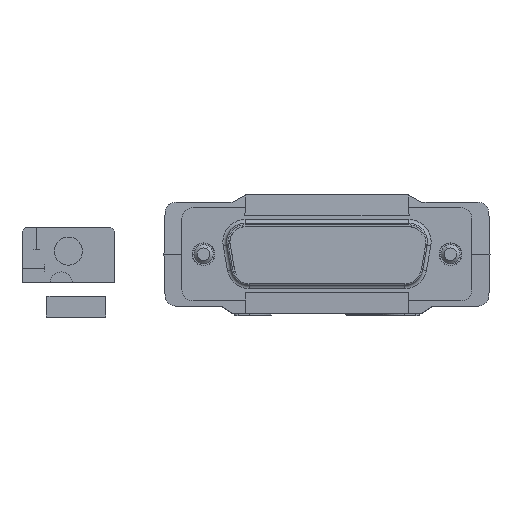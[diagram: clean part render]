
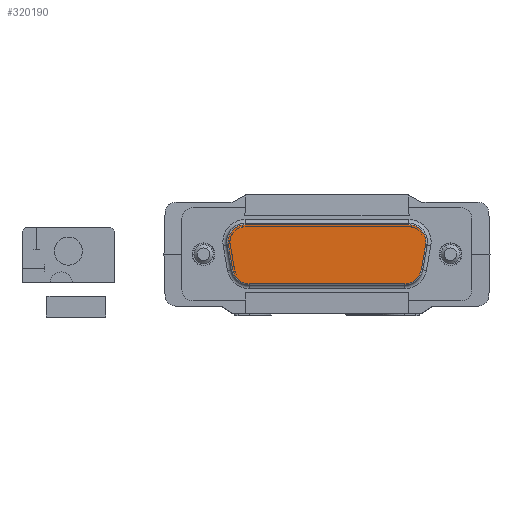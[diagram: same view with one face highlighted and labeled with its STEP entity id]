
A CAD part, left-side view. The second image highlights one B-rep face of the part: STEP entity #320190.
In plain terms, the highlighted planar face has unit normal (-1, 0, 0) as drawn and (1, 0, 0) by its records, which use the part's own axes.
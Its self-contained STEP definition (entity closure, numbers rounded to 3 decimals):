
#236340=CARTESIAN_POINT('',(-10.578,-37.393,
1.67));
#236350=DIRECTION('',(1.,0.,0.));
#236360=DIRECTION('',(0.,-1.,0.));
#236370=AXIS2_PLACEMENT_3D('',#236340,#236350,#236360);
#236380=CIRCLE('',#236370,2.05);
#236390=CARTESIAN_POINT('',(-10.578,-35.374,
2.026));
#236400=VERTEX_POINT('',#236390);
#236410=CARTESIAN_POINT('',(-10.578,-35.653,
2.755));
#236420=VERTEX_POINT('',#236410);
#236430=EDGE_CURVE('',#236400,#236420,#236380,.T.);
#261880=CARTESIAN_POINT('',(-10.578,-58.929,
-3.696));
#261890=VERTEX_POINT('',#261880);
#261940=CARTESIAN_POINT('',(-10.578,-44.902,
-3.696));
#261950=DIRECTION('',(0.,-1.,0.));
#261960=VECTOR('',#261950,1.);
#261970=LINE('',#261940,#261960);
#261980=CARTESIAN_POINT('',(-10.578,-36.819,
-3.696));
#261990=VERTEX_POINT('',#261980);
#262000=EDGE_CURVE('',#261990,#261890,#261970,.T.);
#262380=CARTESIAN_POINT('',(-10.578,-60.669,
-2.73));
#262390=VERTEX_POINT('',#262380);
#262420=CARTESIAN_POINT('',(-10.578,-58.929,
-1.646));
#262430=DIRECTION('',(1.,0.,0.));
#262440=DIRECTION('',(0.,-1.,0.));
#262450=AXIS2_PLACEMENT_3D('',#262420,#262430,#262440);
#262460=CIRCLE('',#262450,2.05);
#262470=EDGE_CURVE('',#262390,#261890,#262460,.T.);
#314730=CARTESIAN_POINT('',(-10.578,-34.8,
-1.29));
#314740=VERTEX_POINT('',#314730);
#314870=CARTESIAN_POINT('',(-10.578,-36.819,
-1.646));
#314880=DIRECTION('',(1.,0.,0.));
#314890=DIRECTION('',(0.,-1.,0.));
#314900=AXIS2_PLACEMENT_3D('',#314870,#314880,#314890);
#314910=CIRCLE('',#314900,2.05);
#314920=EDGE_CURVE('',#261990,#314740,#314910,.T.);
#317720=CARTESIAN_POINT('',(-10.578,-35.389,
2.05));
#317730=VERTEX_POINT('',#317720);
#317850=CARTESIAN_POINT('',(-10.578,-34.8,
-1.29));
#317860=DIRECTION('',(0.,-0.174,
0.985));
#317870=VECTOR('',#317860,1.);
#317880=LINE('',#317850,#317870);
#317890=EDGE_CURVE('',#314740,#317730,#317880,.T.);
#318420=CARTESIAN_POINT('',(-10.578,-34.785,
-1.314));
#318430=VERTEX_POINT('',#318420);
#318460=CARTESIAN_POINT('',(-10.578,-36.804,
-1.67));
#318470=DIRECTION('',(1.,0.,0.));
#318480=DIRECTION('',(0.,-1.,0.));
#318490=AXIS2_PLACEMENT_3D('',#318460,#318470,#318480);
#318500=CIRCLE('',#318490,2.05);
#318510=CARTESIAN_POINT('',(-10.578,-36.804,
-3.72));
#318520=VERTEX_POINT('',#318510);
#318530=EDGE_CURVE('',#318520,#318430,#318500,.T.);
#318780=CARTESIAN_POINT('',(-10.578,-36.128,
6.3));
#318790=DIRECTION('',(0.,-0.174,
0.985));
#318800=VECTOR('',#318790,1.);
#318810=LINE('',#318780,#318800);
#318820=EDGE_CURVE('',#318430,#236400,#318810,.T.);
#319010=CARTESIAN_POINT('',(-10.578,-37.408,
1.694));
#319020=DIRECTION('',(1.,0.,0.));
#319030=DIRECTION('',(0.,-1.,0.));
#319040=AXIS2_PLACEMENT_3D('',#319010,#319020,#319030);
#319050=CIRCLE('',#319040,2.05);
#319060=EDGE_CURVE('',#317730,#236420,#319050,.T.);
#319190=CARTESIAN_POINT('',(-10.578,-29.244,
6.3));
#319200=DIRECTION('',(1.,0.,0.));
#319210=DIRECTION('',(0.,-1.,0.));
#319220=AXIS2_PLACEMENT_3D('',#319190,#319200,#319210);
#319230=PLANE('',#319220);
#319240=ORIENTED_EDGE('',*,*,#319060,.T.);
#319250=ORIENTED_EDGE('',*,*,#317890,.T.);
#319260=ORIENTED_EDGE('',*,*,#314920,.T.);
#319270=ORIENTED_EDGE('',*,*,#262000,.F.);
#319280=ORIENTED_EDGE('',*,*,#262470,.T.);
#319290=CARTESIAN_POINT('',(-10.578,-58.914,
-1.67));
#319300=DIRECTION('',(1.,0.,0.));
#319310=DIRECTION('',(0.,-1.,0.));
#319320=AXIS2_PLACEMENT_3D('',#319290,#319300,#319310);
#319330=CIRCLE('',#319320,2.05);
#319340=CARTESIAN_POINT('',(-10.578,-58.914,
-3.72));
#319350=VERTEX_POINT('',#319340);
#319360=EDGE_CURVE('',#262390,#319350,#319330,.T.);
#319370=ORIENTED_EDGE('',*,*,#319360,.F.);
#319380=CARTESIAN_POINT('',(-10.578,-37.574,
-3.72));
#319390=DIRECTION('',(0.,1.,0.));
#319400=VECTOR('',#319390,1.);
#319410=LINE('',#319380,#319400);
#319420=EDGE_CURVE('',#319350,#318520,#319410,.T.);
#319430=ORIENTED_EDGE('',*,*,#319420,.F.);
#319440=ORIENTED_EDGE('',*,*,#318530,.F.);
#319450=ORIENTED_EDGE('',*,*,#318820,.F.);
#319460=ORIENTED_EDGE('',*,*,#236430,.F.);
#319470=EDGE_LOOP('',(#319460,#319450,#319440,#319430,#319370,#319280,
#319270,#319260,#319250,#319240));
#319480=FACE_BOUND('',#319470,.T.);
#319490=CARTESIAN_POINT('',(-10.578,-37.393,
1.67));
#319500=DIRECTION('',(1.,0.,0.));
#319510=DIRECTION('',(0.,-1.,0.));
#319520=AXIS2_PLACEMENT_3D('',#319490,#319500,#319510);
#319530=CIRCLE('',#319520,2.3);
#319540=CARTESIAN_POINT('',(-10.578,-35.128,
2.069));
#319550=VERTEX_POINT('',#319540);
#319560=CARTESIAN_POINT('',(-10.578,-37.393,
3.97));
#319570=VERTEX_POINT('',#319560);
#319580=EDGE_CURVE('',#319550,#319570,#319530,.T.);
#319590=ORIENTED_EDGE('',*,*,#319580,.T.);
#319600=CARTESIAN_POINT('',(-10.578,-35.874,
6.3));
#319610=DIRECTION('',(0.,-0.174,
0.985));
#319620=VECTOR('',#319610,1.);
#319630=LINE('',#319600,#319620);
#319640=CARTESIAN_POINT('',(-10.578,-34.539,
-1.271));
#319650=VERTEX_POINT('',#319640);
#319660=EDGE_CURVE('',#319650,#319550,#319630,.T.);
#319670=ORIENTED_EDGE('',*,*,#319660,.T.);
#319680=CARTESIAN_POINT('',(-10.578,-36.804,
-1.67));
#319690=DIRECTION('',(1.,0.,0.));
#319700=DIRECTION('',(0.,-1.,0.));
#319710=AXIS2_PLACEMENT_3D('',#319680,#319690,#319700);
#319720=CIRCLE('',#319710,2.3);
#319730=CARTESIAN_POINT('',(-10.578,-36.804,
-3.97));
#319740=VERTEX_POINT('',#319730);
#319750=EDGE_CURVE('',#319740,#319650,#319720,.T.);
#319760=ORIENTED_EDGE('',*,*,#319750,.T.);
#319770=CARTESIAN_POINT('',(-10.578,-37.574,
-3.97));
#319780=DIRECTION('',(0.,-1.,0.));
#319790=VECTOR('',#319780,1.);
#319800=LINE('',#319770,#319790);
#319810=CARTESIAN_POINT('',(-10.578,-58.914,
-3.97));
#319820=VERTEX_POINT('',#319810);
#319830=EDGE_CURVE('',#319740,#319820,#319800,.T.);
#319840=ORIENTED_EDGE('',*,*,#319830,.F.);
#319850=CARTESIAN_POINT('',(-10.578,-58.914,
-1.67));
#319860=DIRECTION('',(1.,0.,0.));
#319870=DIRECTION('',(0.,-1.,0.));
#319880=AXIS2_PLACEMENT_3D('',#319850,#319860,#319870);
#319890=CIRCLE('',#319880,2.3);
#319900=CARTESIAN_POINT('',(-10.578,-61.179,
-1.271));
#319910=VERTEX_POINT('',#319900);
#319920=EDGE_CURVE('',#319910,#319820,#319890,.T.);
#319930=ORIENTED_EDGE('',*,*,#319920,.T.);
#319940=CARTESIAN_POINT('',(-10.578,-59.844,
6.3));
#319950=DIRECTION('',(0.,0.174,
0.985));
#319960=VECTOR('',#319950,1.);
#319970=LINE('',#319940,#319960);
#319980=CARTESIAN_POINT('',(-10.578,-60.59,
2.069));
#319990=VERTEX_POINT('',#319980);
#320000=EDGE_CURVE('',#319910,#319990,#319970,.T.);
#320010=ORIENTED_EDGE('',*,*,#320000,.F.);
#320020=CARTESIAN_POINT('',(-10.578,-58.325,
1.67));
#320030=DIRECTION('',(1.,0.,0.));
#320040=DIRECTION('',(0.,-1.,0.));
#320050=AXIS2_PLACEMENT_3D('',#320020,#320030,#320040);
#320060=CIRCLE('',#320050,2.3);
#320070=CARTESIAN_POINT('',(-10.578,-58.325,
3.97));
#320080=VERTEX_POINT('',#320070);
#320090=EDGE_CURVE('',#320080,#319990,#320060,.T.);
#320100=ORIENTED_EDGE('',*,*,#320090,.T.);
#320110=CARTESIAN_POINT('',(-10.578,-29.244,
3.97));
#320120=DIRECTION('',(0.,-1.,0.));
#320130=VECTOR('',#320120,1.);
#320140=LINE('',#320110,#320130);
#320150=EDGE_CURVE('',#319570,#320080,#320140,.T.);
#320160=ORIENTED_EDGE('',*,*,#320150,.T.);
#320170=EDGE_LOOP('',(#320160,#320100,#320010,#319930,#319840,#319760,
#319670,#319590));
#320180=FACE_OUTER_BOUND('',#320170,.T.);
#320190=ADVANCED_FACE('',(#319480,#320180),#319230,.T.);
